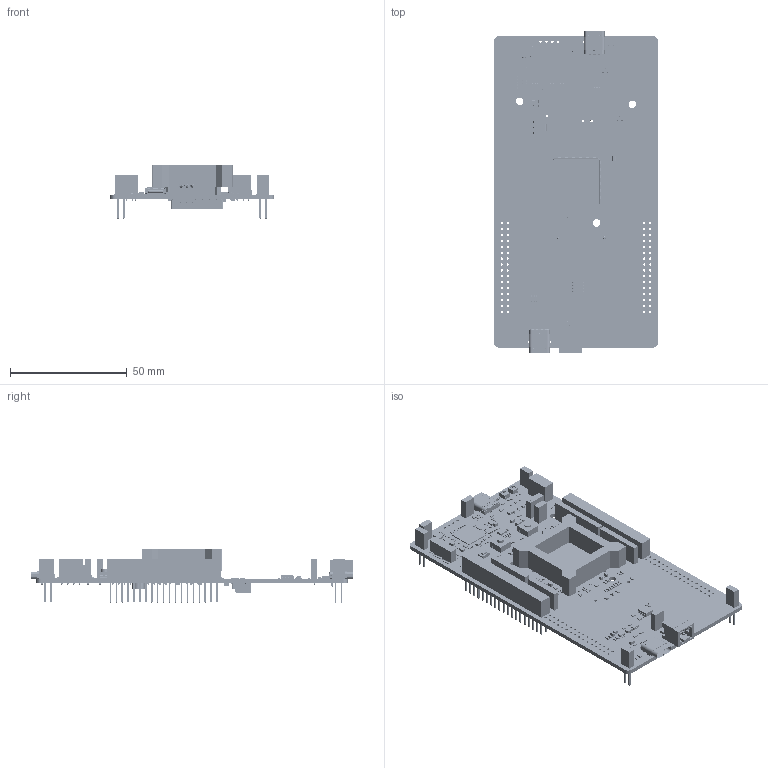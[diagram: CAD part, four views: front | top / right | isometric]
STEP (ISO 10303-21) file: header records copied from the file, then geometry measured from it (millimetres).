
FILE_DESCRIPTION(('Open CASCADE Model'),'2;1');
FILE_NAME('Open CASCADE Shape Model','2025-09-12T14:16:41',('Author'),( 'Open CASCADE'),'Open CASCADE STEP processor 7.5','Open CASCADE 7.5' ,'Unknown');
FILE_SCHEMA(('AUTOMOTIVE_DESIGN { 1 0 10303 214 1 1 1 1 }'));
Length unit declared in the file: millimetre
Products named in the file (567): PCB; Board; Open CASCADE STEP translator 7.5 1.1.1; U1; LQFP144_20X20_P050; 7103646576; Extruded; 7103646496; 7103646416; 7103646336; 7163072192; Cylinder; 7163071792; 7163071632; 7163071312; 7163071152; 7163070832; 7163070512; 7163067552; SB6; R0603; 7163057632; X1; NX2016; 7162348240; 7162348080; U21; 0201; 7162348720; U17; U4; SOT323-5L; 7162348960; U3; U19; SO8; 7162341840; U22; 7162349440; 7162349280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
Assembly tree (1451 placements, depth 4):
  PCB
    Board
      Open CASCADE STEP translator 7.5 1.1.1
    U1
      LQFP144_20X20_P050
      7103646576
        Extruded
      7103646496
        Extruded
      7103646416
        Extruded
      7103646336
        Extruded
      7163072192  x4
        Cylinder
      7163071792  x2
        Extruded
      7163071632  x2
        Extruded
      7163071312  x2
        Extruded
      7163071152  x2
        Extruded
      7163070832
        Extruded
      7163070512  x72
        Extruded
      7163067552  x72
        Extruded
    SB6
      R0603
      7163057632
        Extruded
    X1
      NX2016
      7162348240
        Extruded
      7162348080
        Extruded
    U21
      0201
      7162348720
        Extruded
    U17
      0201
      7162348720
        Extruded
    U4
      SOT323-5L
      7162348960
        Extruded
    U3
      SOT323-5L
      7162348960
        Extruded
    U19
      SO8
      7162341840
        Extruded
    U22
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Bounding box: 70.1 x 138.14 x 22.77 mm (x, y, z)
Volume: 37306.7 mm3; surface area: 54595.5 mm2
Topology: 1462 solids, 1512 shells, 57518 faces, 140678 edges, 84865 vertices
Faces by surface type: plane 29162, cylinder 12741, bspline 9673, sphere 3599, torus 1607, revolution 562, cone 174
Full cylindrical faces by diameter (mm): 0.2 x1, 0.3 x2, 0.4 x3, 0.5 x1, 0.65 x2, 1 x174, 1.1 x32, 1.15 x1, 1.4 x3, 1.5 x2, 1.65 x1, 1.8 x3, 3.2 x3, 4 x4, 4.05 x1, 4.15 x1, 5.6 x1
Entity records: 576693 total; most frequent: CARTESIAN_POINT 106852, ORIENTED_EDGE 81985, DIRECTION 80468, EDGE_CURVE 41027, LINE 31164, VECTOR 31164, VERTEX_POINT 26113, AXIS2_PLACEMENT_3D 24623
